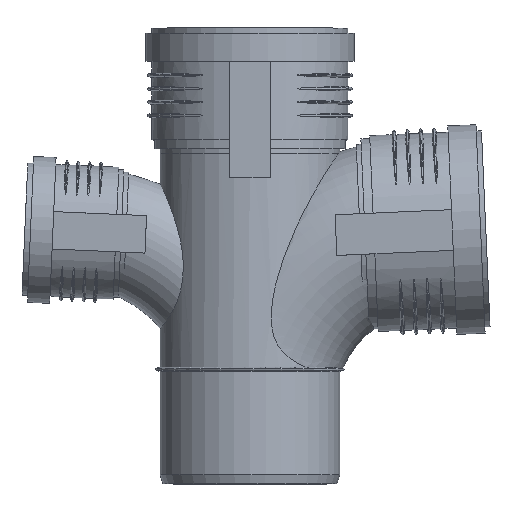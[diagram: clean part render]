
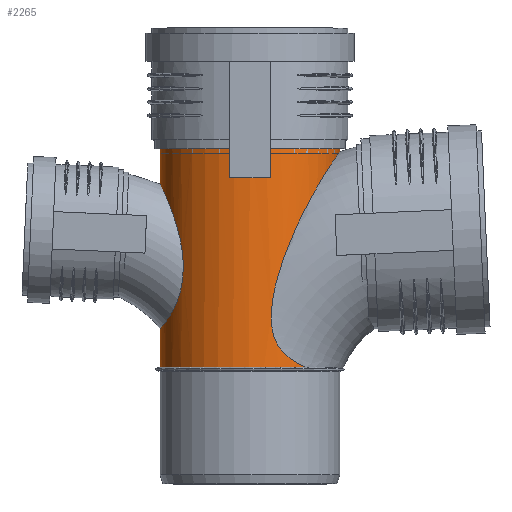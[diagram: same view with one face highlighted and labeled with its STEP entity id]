
A CAD part, top view. The second image highlights one B-rep face of the part: STEP entity #2265.
In plain terms, the highlighted cylindrical face has radius 55.1 mm (diameter 110.2 mm), a full revolution.
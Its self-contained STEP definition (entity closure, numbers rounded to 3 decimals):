
#251=FACE_BOUND($,#518,.T.);
#252=FACE_BOUND($,#519,.T.);
#327=CYLINDRICAL_SURFACE($,#2437,55.1);
#377=FACE_OUTER_BOUND($,#517,.T.);
#517=EDGE_LOOP($,(#1511,#1512));
#518=EDGE_LOOP($,(#1513));
#519=EDGE_LOOP($,(#1514));
#714=CIRCLE($,#2438,55.1);
#715=CIRCLE($,#2439,55.1);
#822=B_SPLINE_CURVE_WITH_KNOTS($,3,(#3718,#3719,#3720,#3721,#3722,#3723,
#3724,#3725,#3726,#3727,#3728,#3729,#3730,#3731,#3732,#3733,#3734,#3735,
#3736,#3737,#3738,#3739,#3740,#3741,#3742,#3743,#3744,#3745,#3746,#3747,
#3748,#3749,#3750,#3751,#3752,#3753,#3754,#3755,#3756,#3757,#3758,#3759,
#3760,#3761),.UNSPECIFIED.,.F.,.F.,(4,2,2,2,2,2,2,2,2,2,2,2,2,2,2,2,2,2,
2,2,2,4),(0.,1.192,2.439,3.377,4.537,
6.65,10.17,13.723,16.609,18.761,
20.092,21.278,22.798,25.218,27.706,
31.634,35.505,37.54,38.823,40.08,
41.247,42.479),.UNSPECIFIED.);
#823=B_SPLINE_CURVE_WITH_KNOTS($,3,(#3778,#3779,#3780,#3781,#3782,#3783,
#3784,#3785,#3786,#3787,#3788,#3789,#3790,#3791,#3792,#3793,#3794,#3795,
#3796,#3797,#3798,#3799,#3800,#3801,#3802,#3803,#3804,#3805,#3806,#3807,
#3808,#3809,#3810,#3811,#3812,#3813,#3814,#3815,#3816,#3817),
 .UNSPECIFIED.,.T.,.F.,(4,2,2,2,2,2,2,2,2,2,2,2,2,2,2,2,2,2,2,4),(0.,0.929,
2.2,3.597,5.549,7.351,8.687,
9.924,11.225,12.533,13.825,15.062,
16.186,17.253,18.469,20.134,21.978,
23.34,24.388,24.775),.UNSPECIFIED.);
#942=VERTEX_POINT($,#3694);
#943=VERTEX_POINT($,#3695);
#948=VERTEX_POINT($,#3775);
#949=VERTEX_POINT($,#3777);
#1178=EDGE_CURVE($,#943,#942,#822,.T.);
#1183=EDGE_CURVE($,#942,#943,#714,.T.);
#1184=EDGE_CURVE($,#948,#948,#715,.T.);
#1185=EDGE_CURVE($,#949,#949,#823,.T.);
#1511=ORIENTED_EDGE($,*,*,#1178,.T.);
#1512=ORIENTED_EDGE($,*,*,#1183,.T.);
#1513=ORIENTED_EDGE($,*,*,#1184,.F.);
#1514=ORIENTED_EDGE($,*,*,#1185,.T.);
#2265=ADVANCED_FACE($,(#377,#251,#252),#327,.T.);
#2437=AXIS2_PLACEMENT_3D($,#3773,#2748,#2749);
#2438=AXIS2_PLACEMENT_3D($,#3774,#2750,#2751);
#2439=AXIS2_PLACEMENT_3D($,#3776,#2752,#2753);
#2748=DIRECTION('center_axis',(0.,1.,0.));
#2749=DIRECTION('ref_axis',(-1.,0.,0.));
#2750=DIRECTION('center_axis',(0.,1.,0.));
#2751=DIRECTION('ref_axis',(-1.,0.,0.));
#2752=DIRECTION('center_axis',(0.,1.,0.));
#2753=DIRECTION('ref_axis',(-1.,0.,0.));
#3694=CARTESIAN_POINT('',(34.452,71.6,-43.));
#3695=CARTESIAN_POINT('',(34.452,71.6,43.));
#3718=CARTESIAN_POINT('Ctrl Pts',(34.452,71.6,43.));
#3719=CARTESIAN_POINT('Ctrl Pts',(31.511,72.854,45.357));
#3720=CARTESIAN_POINT('Ctrl Pts',(28.598,74.318,47.194));
#3721=CARTESIAN_POINT('Ctrl Pts',(23.14,77.96,50.106));
#3722=CARTESIAN_POINT('Ctrl Pts',(20.525,80.226,51.184));
#3723=CARTESIAN_POINT('Ctrl Pts',(16.818,85.325,52.498));
#3724=CARTESIAN_POINT('Ctrl Pts',(15.622,87.727,52.846));
#3725=CARTESIAN_POINT('Ctrl Pts',(13.72,93.591,53.376));
#3726=CARTESIAN_POINT('Ctrl Pts',(13.243,97.042,53.485));
#3727=CARTESIAN_POINT('Ctrl Pts',(12.89,106.657,53.572));
#3728=CARTESIAN_POINT('Ctrl Pts',(13.807,113.319,53.359));
#3729=CARTESIAN_POINT('Ctrl Pts',(17.232,129.462,52.383));
#3730=CARTESIAN_POINT('Ctrl Pts',(20.921,140.338,51.221));
#3731=CARTESIAN_POINT('Ctrl Pts',(29.882,161.434,46.57));
#3732=CARTESIAN_POINT('Ctrl Pts',(34.872,171.021,43.181));
#3733=CARTESIAN_POINT('Ctrl Pts',(43.308,185.813,34.494));
#3734=CARTESIAN_POINT('Ctrl Pts',(46.61,191.069,29.933));
#3735=CARTESIAN_POINT('Ctrl Pts',(51.094,198.006,21.059));
#3736=CARTESIAN_POINT('Ctrl Pts',(52.725,200.432,16.743));
#3737=CARTESIAN_POINT('Ctrl Pts',(54.45,202.972,8.97));
#3738=CARTESIAN_POINT('Ctrl Pts',(54.878,203.594,5.876));
#3739=CARTESIAN_POINT('Ctrl Pts',(55.173,204.022,-0.138));
#3740=CARTESIAN_POINT('Ctrl Pts',(55.092,203.905,-2.97));
#3741=CARTESIAN_POINT('Ctrl Pts',(54.42,202.926,-9.349));
#3742=CARTESIAN_POINT('Ctrl Pts',(53.705,201.883,-12.765));
#3743=CARTESIAN_POINT('Ctrl Pts',(51.189,198.137,-21.075));
#3744=CARTESIAN_POINT('Ctrl Pts',(48.909,194.705,-25.915));
#3745=CARTESIAN_POINT('Ctrl Pts',(43.037,185.275,-34.829));
#3746=CARTESIAN_POINT('Ctrl Pts',(39.743,179.708,-38.402));
#3747=CARTESIAN_POINT('Ctrl Pts',(31.511,164.58,-45.699));
#3748=CARTESIAN_POINT('Ctrl Pts',(26.529,154.224,-48.499));
#3749=CARTESIAN_POINT('Ctrl Pts',(18.437,133.126,-52.11));
#3750=CARTESIAN_POINT('Ctrl Pts',(15.319,122.44,-52.948));
#3751=CARTESIAN_POINT('Ctrl Pts',(13.167,107.76,-53.509));
#3752=CARTESIAN_POINT('Ctrl Pts',(12.795,102.293,-53.597));
#3753=CARTESIAN_POINT('Ctrl Pts',(13.703,93.964,-53.37));
#3754=CARTESIAN_POINT('Ctrl Pts',(14.432,90.789,-53.193));
#3755=CARTESIAN_POINT('Ctrl Pts',(16.988,84.94,-52.432));
#3756=CARTESIAN_POINT('Ctrl Pts',(18.707,82.446,-51.879));
#3757=CARTESIAN_POINT('Ctrl Pts',(22.822,78.242,-50.197));
#3758=CARTESIAN_POINT('Ctrl Pts',(25.041,76.603,-49.151));
#3759=CARTESIAN_POINT('Ctrl Pts',(29.698,73.761,-46.493));
#3760=CARTESIAN_POINT('Ctrl Pts',(32.126,72.592,-44.864));
#3761=CARTESIAN_POINT('Ctrl Pts',(34.452,71.6,-43.));
#3773=CARTESIAN_POINT('Origin',(0.,141.69,0.));
#3774=CARTESIAN_POINT('Origin',(0.,71.6,0.));
#3775=CARTESIAN_POINT('',(-55.1,211.78,0.));
#3776=CARTESIAN_POINT('Origin',(0.,211.78,0.));
#3777=CARTESIAN_POINT('',(-55.1,183.987,0.));
#3778=CARTESIAN_POINT('Ctrl Pts',(-55.1,183.987,0.));
#3779=CARTESIAN_POINT('Ctrl Pts',(-55.1,183.987,3.096));
#3780=CARTESIAN_POINT('Ctrl Pts',(-54.837,183.459,6.137));
#3781=CARTESIAN_POINT('Ctrl Pts',(-53.685,181.07,13.051));
#3782=CARTESIAN_POINT('Ctrl Pts',(-52.634,178.853,16.64));
#3783=CARTESIAN_POINT('Ctrl Pts',(-50.114,173.081,23.199));
#3784=CARTESIAN_POINT('Ctrl Pts',(-48.62,169.422,26.067));
#3785=CARTESIAN_POINT('Ctrl Pts',(-45.254,159.885,31.663));
#3786=CARTESIAN_POINT('Ctrl Pts',(-43.409,153.538,33.984));
#3787=CARTESIAN_POINT('Ctrl Pts',(-41.179,140.895,36.648));
#3788=CARTESIAN_POINT('Ctrl Pts',(-40.668,134.423,37.184));
#3789=CARTESIAN_POINT('Ctrl Pts',(-41.491,123.425,36.26));
#3790=CARTESIAN_POINT('Ctrl Pts',(-42.379,118.907,35.287));
#3791=CARTESIAN_POINT('Ctrl Pts',(-45.023,110.881,31.832));
#3792=CARTESIAN_POINT('Ctrl Pts',(-46.637,107.524,29.54));
#3793=CARTESIAN_POINT('Ctrl Pts',(-50.002,101.759,23.422));
#3794=CARTESIAN_POINT('Ctrl Pts',(-51.666,99.527,19.652));
#3795=CARTESIAN_POINT('Ctrl Pts',(-54.149,96.396,11.125));
#3796=CARTESIAN_POINT('Ctrl Pts',(-54.926,95.54,6.471));
#3797=CARTESIAN_POINT('Ctrl Pts',(-55.219,95.208,-3.008));
#3798=CARTESIAN_POINT('Ctrl Pts',(-54.746,95.717,-7.742));
#3799=CARTESIAN_POINT('Ctrl Pts',(-52.754,98.127,-16.503));
#3800=CARTESIAN_POINT('Ctrl Pts',(-51.301,99.943,-20.461));
#3801=CARTESIAN_POINT('Ctrl Pts',(-48.15,104.796,-27.01));
#3802=CARTESIAN_POINT('Ctrl Pts',(-46.542,107.641,-29.596));
#3803=CARTESIAN_POINT('Ctrl Pts',(-43.782,114.277,-33.536));
#3804=CARTESIAN_POINT('Ctrl Pts',(-42.681,117.867,-34.865));
#3805=CARTESIAN_POINT('Ctrl Pts',(-41.138,126.177,-36.678));
#3806=CARTESIAN_POINT('Ctrl Pts',(-40.842,130.819,-36.986));
#3807=CARTESIAN_POINT('Ctrl Pts',(-41.226,141.819,-36.559));
#3808=CARTESIAN_POINT('Ctrl Pts',(-42.304,148.23,-35.39));
#3809=CARTESIAN_POINT('Ctrl Pts',(-45.444,160.734,-31.277));
#3810=CARTESIAN_POINT('Ctrl Pts',(-47.609,166.811,-28.119));
#3811=CARTESIAN_POINT('Ctrl Pts',(-51.097,175.448,-20.897));
#3812=CARTESIAN_POINT('Ctrl Pts',(-52.436,178.392,-17.389));
#3813=CARTESIAN_POINT('Ctrl Pts',(-54.169,182.092,-10.542));
#3814=CARTESIAN_POINT('Ctrl Pts',(-54.724,183.222,-7.298));
#3815=CARTESIAN_POINT('Ctrl Pts',(-55.055,183.896,-2.573));
#3816=CARTESIAN_POINT('Ctrl Pts',(-55.1,183.987,-1.289));
#3817=CARTESIAN_POINT('Ctrl Pts',(-55.1,183.987,0.));
